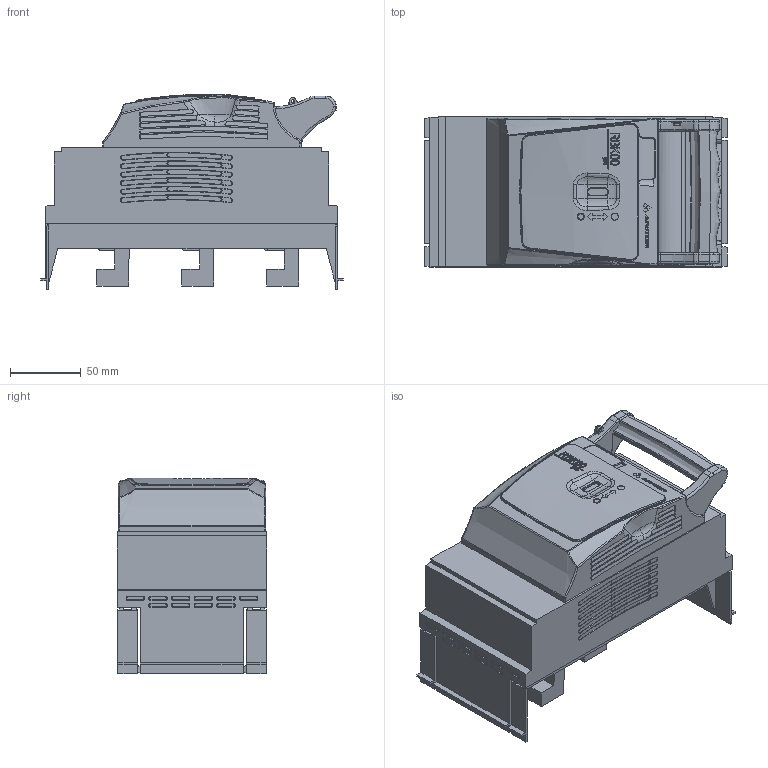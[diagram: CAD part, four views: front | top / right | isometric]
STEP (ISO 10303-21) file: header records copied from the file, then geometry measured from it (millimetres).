
FILE_DESCRIPTION(/* description */ (''),/* implementation_level */ '2;1');
FILE_NAME(/* name */ 'RBK 00 pro-SG.stp',/* time_stamp */ '2019-03-13T09:44:02+01:00',/* author */ (''),/* organization */ (''),/* preprocessor_version */ 'ST-DEVELOPER v16',/* originating_system */ 'SIEMENS PLM Software NX 10.0',/* authorisation */ '');
FILE_SCHEMA (('AUTOMOTIVE_DESIGN { 1 0 10303 214 3 1 1 1 }'));
Products named in the file (1): 710_09740238alo0
Bounding box: 213.94 x 106 x 138.36 mm (x, y, z)
Volume: 1726671.2 mm3; surface area: 157260.9 mm2
Topology: 1 solids, 4 shells, 1689 faces, 4688 edges, 3023 vertices
Faces by surface type: extrusion 617, plane 448, bspline 247, cylinder 141, torus 138, cone 66, sphere 26, revolution 6
Full cylindrical faces by diameter (mm): 2.2 x1, 8.5 x3
Entity records: 73255 total; most frequent: CARTESIAN_POINT 31102, ORIENTED_EDGE 9262, DIRECTION 7912, EDGE_CURVE 4631, VERTEX_POINT 3021, AXIS2_PLACEMENT_3D 2732, VECTOR 2442, LINE 1825
